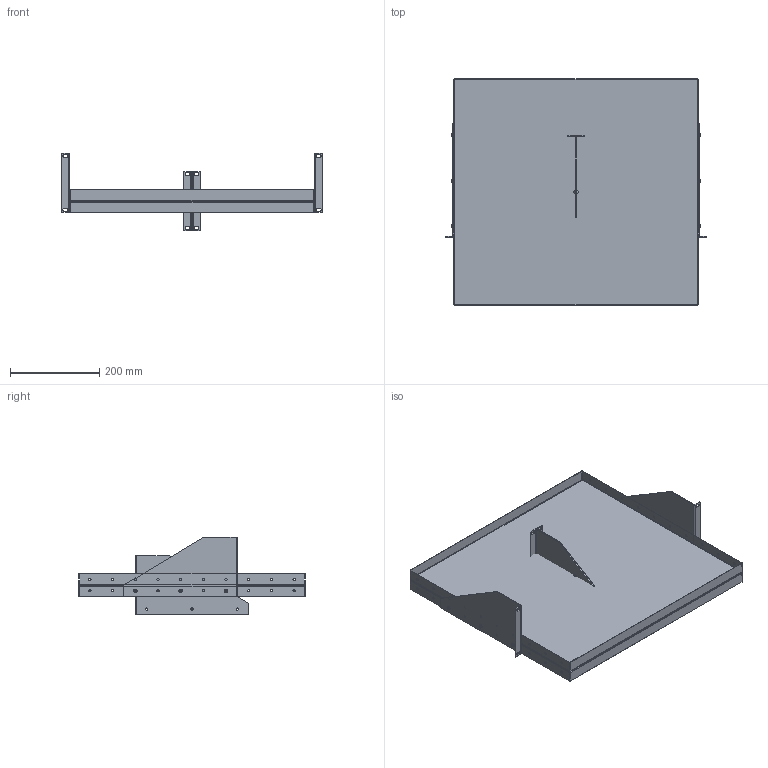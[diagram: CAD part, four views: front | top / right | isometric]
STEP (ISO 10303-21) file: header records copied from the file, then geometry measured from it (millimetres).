
FILE_DESCRIPTION( ( 'Unknown' ), '1' );
FILE_NAME( 'Q:/ACCESSORIES/SHELVES/DNR/WEB DRAWINGS/STEP/DNRMA2320.stp', 'Unknown', ( 'Unknown' ), ( 'Unknown' ), 'PSStep 10.1', 'Unknown', ' ' );
FILE_SCHEMA( ( 'AUTOMOTIVE_DESIGN { 1 0 10303 214 1 1 1 1 }' ) );
Length unit declared in the file: millimetre
Products named in the file (6): Assem1; COM54794; COM54795; COM54793; SCS18603; NTS16450
Bounding box: 584.2 x 508 x 173.41 mm (x, y, z)
Volume: 1139941.4 mm3; surface area: 1533029.3 mm2
Topology: 20 solids, 20 shells, 482 faces, 1152 edges, 717 vertices
Faces by surface type: plane 313, cylinder 120, cone 42, bspline 7
Full cylindrical faces by diameter (mm): 3.307 x7, 4.166 x7, 4.978 x52, 7.798 x7, 9.347 x7
Entity records: 4828 total; most frequent: CARTESIAN_POINT 833, DIRECTION 704, ORIENTED_EDGE 614, EDGE_CURVE 307, AXIS2_PLACEMENT_3D 268, EDGE_LOOP 230, VERTEX_POINT 213, LINE 168
